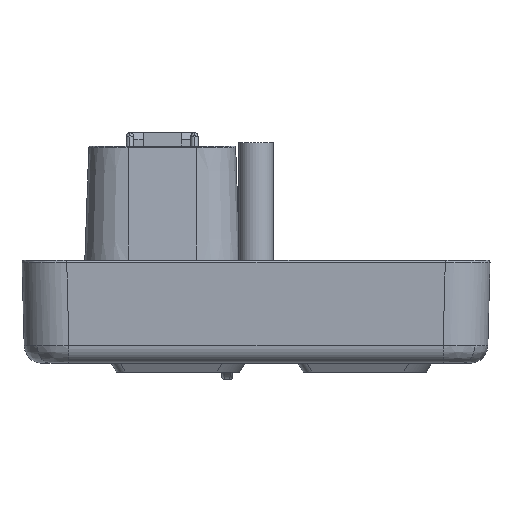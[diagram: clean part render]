
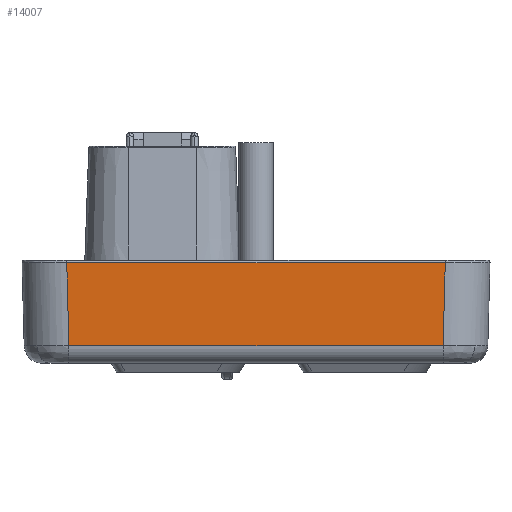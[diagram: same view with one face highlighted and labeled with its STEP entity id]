
A CAD part, left-side view. The second image highlights one B-rep face of the part: STEP entity #14007.
In plain terms, the highlighted planar face has unit normal (-1, 0, -0.026) as drawn and (1, 0, 0.026) by its records, which use the part's own axes.
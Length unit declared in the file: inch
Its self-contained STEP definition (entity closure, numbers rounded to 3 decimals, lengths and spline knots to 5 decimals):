
#659 = EDGE_CURVE ( 'NONE', #30575, #147606, #21793, .T. ) ;
#1943 = EDGE_CURVE ( 'NONE', #7587, #30575, #125562, .T. ) ;
#7078 = LINE ( 'NONE', #115590, #91525 ) ;
#7587 = VERTEX_POINT ( 'NONE', #81064 ) ;
#14007 = ADVANCED_FACE ( 'NONE', ( #141142 ), #101084, .T. ) ;
#14568 = VECTOR ( 'NONE', #45799, 39.37008 ) ;
#17773 = EDGE_CURVE ( 'NONE', #35277, #7587, #72870, .T. ) ;
#20245 = CARTESIAN_POINT ( 'NONE',  ( 1.82461, 1.05719, 0.02965 ) ) ;
#21000 = DIRECTION ( 'NONE',  ( 1., 0., 0.026 ) ) ;
#21793 = LINE ( 'NONE', #113478, #14568 ) ;
#30575 = VERTEX_POINT ( 'NONE', #20245 ) ;
#32724 = CARTESIAN_POINT ( 'NONE',  ( 1.81247, -1.04505, 0.49322 ) ) ;
#35277 = VERTEX_POINT ( 'NONE', #32724 ) ;
#41995 = AXIS2_PLACEMENT_3D ( 'NONE', #142895, #21000, #129552 ) ;
#45799 = DIRECTION ( 'NONE',  ( -0.026, -0.026, 0.999 ) ) ;
#46608 = ORIENTED_EDGE ( 'NONE', *, *, #17773, .T. ) ;
#49178 = ORIENTED_EDGE ( 'NONE', *, *, #120500, .T. ) ;
#72870 = LINE ( 'NONE', #143208, #115591 ) ;
#73779 = DIRECTION ( 'NONE',  ( 0.026, -0.026, -0.999 ) ) ;
#81064 = CARTESIAN_POINT ( 'NONE',  ( 1.8246, -1.05718, 0.02993 ) ) ;
#86357 = DIRECTION ( 'NONE',  ( 0., 1., 0. ) ) ;
#91525 = VECTOR ( 'NONE', #155634, 39.37008 ) ;
#101084 = PLANE ( 'NONE',  #41995 ) ;
#113478 = CARTESIAN_POINT ( 'NONE',  ( 1.82338, 1.05597, 0.07645 ) ) ;
#115590 = CARTESIAN_POINT ( 'NONE',  ( 1.81247, -1.0425, 0.49322 ) ) ;
#115591 = VECTOR ( 'NONE', #73779, 39.37008 ) ;
#120500 = EDGE_CURVE ( 'NONE', #147606, #35277, #7078, .T. ) ;
#122537 = CARTESIAN_POINT ( 'NONE',  ( 1.81247, 1.04505, 0.49322 ) ) ;
#125562 = LINE ( 'NONE', #167338, #162649 ) ;
#129552 = DIRECTION ( 'NONE',  ( 0.026, 0., -1. ) ) ;
#140116 = EDGE_LOOP ( 'NONE', ( #46608, #144475, #144142, #49178 ) ) ;
#141142 = FACE_OUTER_BOUND ( 'NONE', #140116, .T. ) ;
#142895 = CARTESIAN_POINT ( 'NONE',  ( 1.825, -1.3075, 0.0146 ) ) ;
#143208 = CARTESIAN_POINT ( 'NONE',  ( 1.82517, -1.05776, 0.00806 ) ) ;
#144142 = ORIENTED_EDGE ( 'NONE', *, *, #659, .T. ) ;
#144475 = ORIENTED_EDGE ( 'NONE', *, *, #1943, .T. ) ;
#147606 = VERTEX_POINT ( 'NONE', #122537 ) ;
#155634 = DIRECTION ( 'NONE',  ( 0., -1., 0. ) ) ;
#162649 = VECTOR ( 'NONE', #86357, 39.37008 ) ;
#167338 = CARTESIAN_POINT ( 'NONE',  ( 1.82461, -1.3075, 0.02965 ) ) ;
